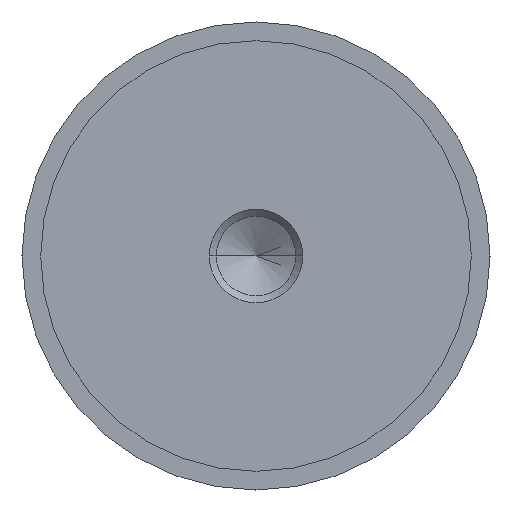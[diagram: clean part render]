
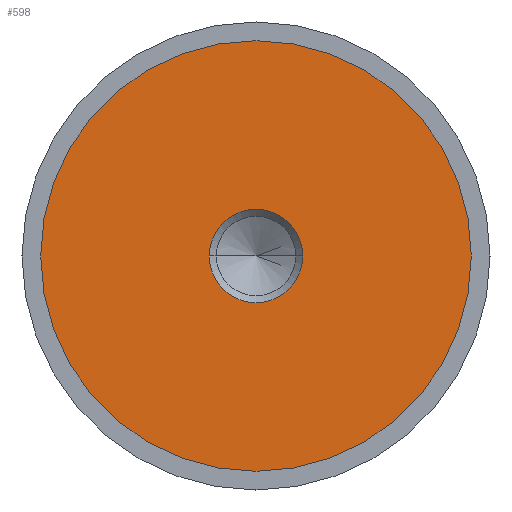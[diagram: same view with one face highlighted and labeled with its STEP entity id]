
A CAD part, left-side view. The second image highlights one B-rep face of the part: STEP entity #598.
In plain terms, the highlighted planar face has unit normal (-1, 0, 0).
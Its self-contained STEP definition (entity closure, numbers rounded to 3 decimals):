
#3 = CIRCLE ( 'NONE', #775, 23. ) ;
#30 = CARTESIAN_POINT ( 'NONE',  ( -22.49, 0., -23. ) ) ;
#35 = ORIENTED_EDGE ( 'NONE', *, *, #113, .T. ) ;
#38 = DIRECTION ( 'NONE',  ( 1., 0., 0. ) ) ;
#40 = AXIS2_PLACEMENT_3D ( 'NONE', #346, #223, #757 ) ;
#41 = EDGE_LOOP ( 'NONE', ( #35, #351 ) ) ;
#42 = CIRCLE ( 'NONE', #491, 4.99 ) ;
#45 = VERTEX_POINT ( 'NONE', #310 ) ;
#66 = AXIS2_PLACEMENT_3D ( 'NONE', #144, #560, #265 ) ;
#96 = DIRECTION ( 'NONE',  ( -1., 0., 0. ) ) ;
#106 = FACE_BOUND ( 'NONE', #525, .T. ) ;
#113 = EDGE_CURVE ( 'NONE', #45, #695, #3, .T. ) ;
#144 = CARTESIAN_POINT ( 'NONE',  ( -22.49, 0., 0. ) ) ;
#158 = DIRECTION ( 'NONE',  ( 0., 0., -1. ) ) ;
#162 = CARTESIAN_POINT ( 'NONE',  ( -22.49, 23., 0. ) ) ;
#163 = EDGE_CURVE ( 'NONE', #426, #224, #42, .T. ) ;
#170 = ORIENTED_EDGE ( 'NONE', *, *, #163, .T. ) ;
#182 = CARTESIAN_POINT ( 'NONE',  ( -22.49, 4.99, 0. ) ) ;
#186 = DIRECTION ( 'NONE',  ( 0., 0., 1. ) ) ;
#193 = CIRCLE ( 'NONE', #40, 23. ) ;
#221 = EDGE_CURVE ( 'NONE', #695, #45, #193, .T. ) ;
#223 = DIRECTION ( 'NONE',  ( -1., 0., 0. ) ) ;
#224 = VERTEX_POINT ( 'NONE', #415 ) ;
#265 = DIRECTION ( 'NONE',  ( 0., 0., -1. ) ) ;
#268 = ORIENTED_EDGE ( 'NONE', *, *, #483, .T. ) ;
#276 = DIRECTION ( 'NONE',  ( 0., 0., -1. ) ) ;
#278 = AXIS2_PLACEMENT_3D ( 'NONE', #162, #520, #158 ) ;
#310 = CARTESIAN_POINT ( 'NONE',  ( -22.49, 0., 23. ) ) ;
#346 = CARTESIAN_POINT ( 'NONE',  ( -22.49, 0., 0. ) ) ;
#351 = ORIENTED_EDGE ( 'NONE', *, *, #221, .T. ) ;
#415 = CARTESIAN_POINT ( 'NONE',  ( -22.49, -4.99, 0. ) ) ;
#426 = VERTEX_POINT ( 'NONE', #182 ) ;
#443 = CARTESIAN_POINT ( 'NONE',  ( -22.49, 0., 0. ) ) ;
#483 = EDGE_CURVE ( 'NONE', #224, #426, #724, .T. ) ;
#491 = AXIS2_PLACEMENT_3D ( 'NONE', #774, #38, #276 ) ;
#520 = DIRECTION ( 'NONE',  ( 1., 0., 0. ) ) ;
#525 = EDGE_LOOP ( 'NONE', ( #268, #170 ) ) ;
#560 = DIRECTION ( 'NONE',  ( 1., 0., 0. ) ) ;
#590 = FACE_OUTER_BOUND ( 'NONE', #41, .T. ) ;
#598 = ADVANCED_FACE ( 'NONE', ( #106, #590 ), #639, .F. ) ;
#639 = PLANE ( 'NONE',  #278 ) ;
#695 = VERTEX_POINT ( 'NONE', #30 ) ;
#724 = CIRCLE ( 'NONE', #66, 4.99 ) ;
#757 = DIRECTION ( 'NONE',  ( 0., 0., 1. ) ) ;
#774 = CARTESIAN_POINT ( 'NONE',  ( -22.49, 0., 0. ) ) ;
#775 = AXIS2_PLACEMENT_3D ( 'NONE', #443, #96, #186 ) ;
